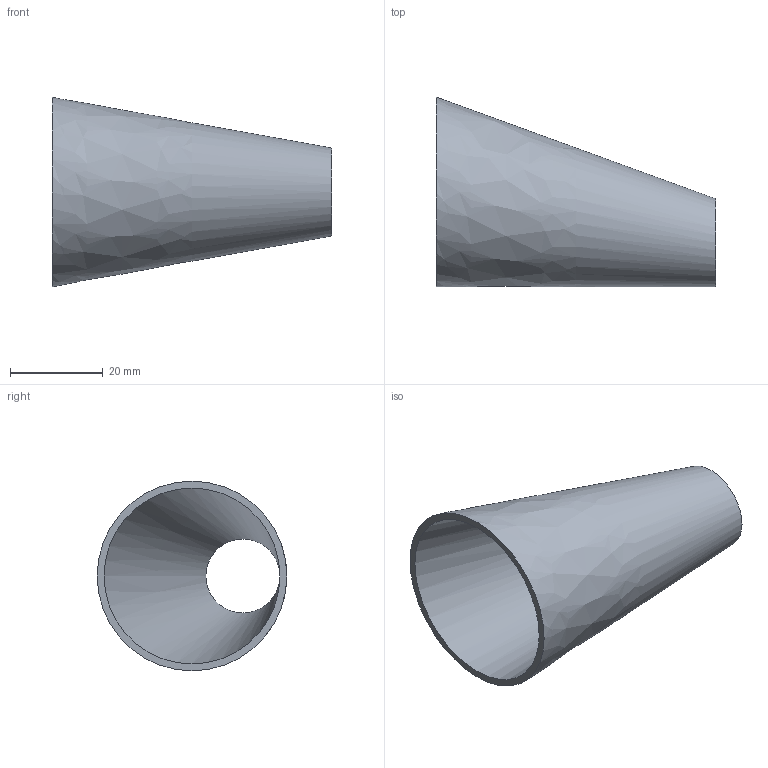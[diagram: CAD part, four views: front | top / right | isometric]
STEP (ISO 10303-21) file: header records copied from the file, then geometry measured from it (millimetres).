
FILE_DESCRIPTION(('FreeCAD Model'),'2;1');
FILE_NAME( '/home/martin/Documents/proyect/accesorios/stp/red-exc_DN40-15.step', '2017-12-31T13:02:52',('Author'),(''), 'Open CASCADE STEP processor 6.8','FreeCAD','Unknown');
FILE_SCHEMA(('AUTOMOTIVE_DESIGN_CC2 { 1 2 10303 214 -1 1 5 4 }'));
Length unit declared in the file: millimetre
Products named in the file (1): red-exc_DN40-15
Bounding box: 60.5 x 41 x 41 mm (x, y, z)
Volume: 8125.3 mm3; surface area: 11364.8 mm2
Topology: 1 solids, 1 shells, 4 faces, 6 edges, 4 vertices
Faces by surface type: bspline 2, plane 2
Entity records: 247 total; most frequent: CARTESIAN_POINT 87, DIRECTION 26, ORIENTED_EDGE 12, PCURVE 12, DEFINITIONAL_REPRESENTATION 12, CIRCLE 8, LINE 8, VECTOR 8
